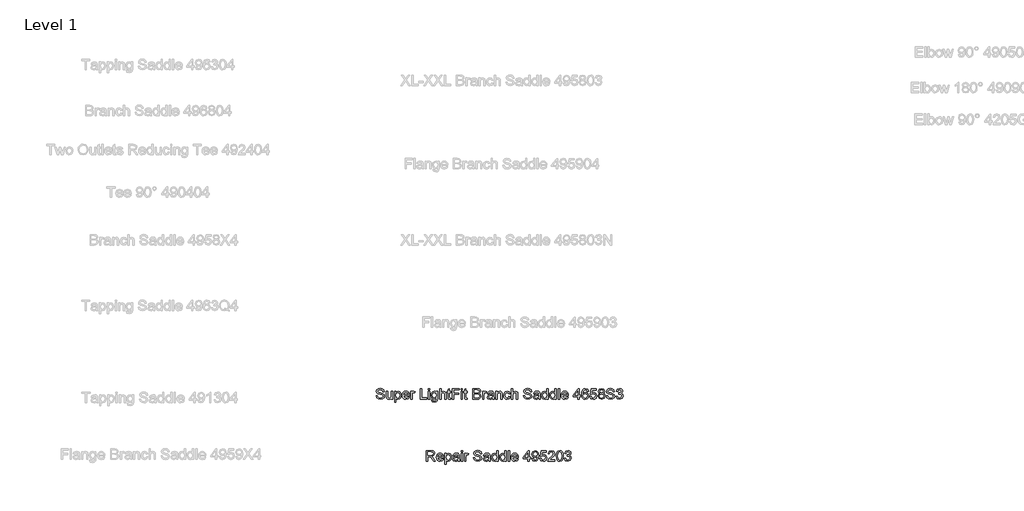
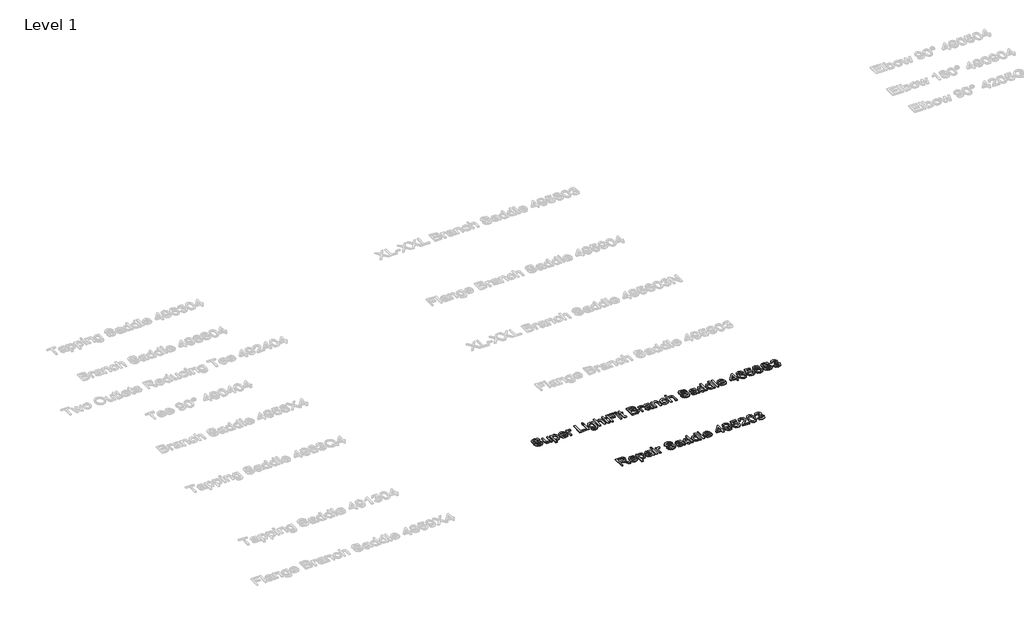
# One storey, part 11 of 41: 2 proxies.
"""IFC4 building model written with IfcOpenShell, lengths in millimetres."""

from ifc_helpers import new_model, si_unit, origin, origin_with_axes, place, context, project, spatial, polyline, outline, extrude, element, save

model = new_model("IFC4")

# Units and contexts
model_context = context("Model", 3, world=origin())
ifc_project = project(units=[si_unit("LENGTHUNIT", "METRE", prefix="MILLI")], contexts=[model_context])

# Site, building, storey
site = spatial("IfcSite", under=ifc_project)
building = spatial("IfcBuilding", under=site)
storey = spatial("IfcBuildingStorey", under=building, Name="Level 1", Elevation=0.0)

# Proxies
placement = place(None, origin())
element("IfcBuildingElementProxy", 1, Name="100 mm Arial", ObjectType="100 mm Arial", at=placement, inside=storey, context=model_context, shape_type="SweptSolid", body=[
    extrude(outline(polyline([(8290.2094957, 1978.2970875), (8297.743719, 1978.2970875), (8300.1717402, 1970.7555066), (8306.1019979, 1965.987756), (8315.1371797, 1964.1704189), (8323.0098544, 1965.5462976), (8328.0939836, 1969.3281245), (8329.7641679, 1974.3828231), (8328.5133691, 1979.084355), (8323.3924517, 1982.5056575), (8312.4222106, 1985.3824947), (8300.6131986, 1989.0981029), (8294.2046942, 1994.7046245), (8292.0930516, 2002.1947019), (8294.7050137, 2010.7222066), (8302.3348863, 2016.740756), (8313.5037837, 2018.7935375), (8325.4231603, 2016.6451067), (8333.3694114, 2010.3322516), (8336.3566132, 2000.8997573), (8328.82239, 2000.8997573), (8324.5549588, 2008.6399945), (8313.7980893, 2011.2593143), (8303.0117892, 2008.669425), (8299.6272748, 2002.4154311), (8302.0258654, 1997.1915068), (8314.3278393, 1992.9829368), (8327.6598828, 1989.2011098), (8334.951304, 1983.0942687), (8337.2983911, 1974.5741217), (8334.5981373, 1965.5610128), (8326.8284695, 1958.9832828), (8315.4314853, 1956.6361956), (8301.9743619, 1959.1672238), (8293.4615726, 1966.7897387), (8290.2094957, 1978.2970875)])), origin_with_axes(), (0.0, 0.0, 1.0), 5.0),
    extrude(outline(polyline([(8375.9112853, 1957.5779735), (8375.9112853, 1965.1857732), (8370.0104581, 1958.77359), (8362.3143668, 1956.6361956), (8355.2289596, 1958.1371542), (8350.3434867, 1961.9042658), (8348.0994065, 1967.4519263), (8347.6579481, 1974.4563995), (8347.6579481, 2001.8415352), (8355.1921714, 2001.8415352), (8355.1921714, 1978.0027819), (8355.648345, 1970.3214059), (8358.6281892, 1965.8111726), (8364.2420684, 1964.1704189), (8370.5328506, 1965.8479608), (8374.6899171, 1970.4170552), (8375.9112853, 1978.8121223), (8375.9112853, 2001.8415352), (8383.4455086, 2001.8415352), (8383.4455086, 1957.5779735), (8375.9112853, 1957.5779735)])), origin_with_axes(), (0.0, 0.0, 1.0), 5.0),
    extrude(outline(polyline([(8393.8050656, 1940.6259712), (8393.8050656, 2001.8415352), (8401.3392888, 2001.8415352), (8401.3392888, 1994.4544647), (8406.5484979, 2000.701101), (8413.5824016, 2002.7833131), (8423.1326182, 1999.8696877), (8429.3718969, 1991.6585616), (8431.4761819, 1980.0482058), (8429.0996642, 1967.8418812), (8422.198198, 1959.5277481), (8412.6700543, 1956.6361956), (8406.1143971, 1958.5712549), (8401.3392888, 1963.4640855), (8401.3392888, 1940.6259712), (8393.8050656, 1940.6259712)]), holes=[polyline([(8401.3392888, 1979.3565877), (8404.5987233, 1967.8786694), (8412.5081862, 1964.1704189), (8420.5795172, 1968.0111069), (8423.9419586, 1979.9157683), (8420.6604512, 1991.4231171), (8412.8172071, 1995.2490898), (8404.8194525, 1991.180315), (8401.3392888, 1979.3565877)])]), origin_with_axes(), (0.0, 0.0, 1.0), 5.0),
    extrude(outline(polyline([(8470.9425623, 1970.7628642), (8478.3296328, 1969.8210863), (8471.4208089, 1960.0942864), (8458.5522967, 1956.6361956), (8449.7120924, 1958.1279571), (8442.9099543, 1962.6032416), (8438.5726256, 1969.7714223), (8437.1268493, 1979.3418724), (8438.5873409, 1989.2342192), (8442.9688154, 1996.6323261), (8449.678983, 2001.2455664), (8458.1255536, 2002.7833131), (8466.3090886, 2001.2492452), (8472.8481911, 1996.6470414), (8477.1358557, 1989.2636498), (8478.5650773, 1979.3860182), (8478.5209314, 1977.3553096), (8444.6610726, 1977.3553096), (8448.9947225, 1967.5696485), (8458.6994495, 1964.1704189), (8466.08652, 1965.7449538), (8470.9425623, 1970.7628642)]), holes=[polyline([(8444.6610726, 1984.8895329), (8471.030854, 1984.8895329), (8468.0142216, 1991.7174227), (8458.0961231, 1995.2490898), (8448.8181391, 1992.4311138), (8444.6610726, 1984.8895329)])]), origin_with_axes(), (0.0, 0.0, 1.0), 5.0),
    extrude(outline(polyline([(8486.0993005, 1957.5779735), (8486.0993005, 2001.8415352), (8492.6917459, 2001.8415352), (8492.6917459, 1995.2932357), (8497.3712049, 2001.3265004), (8502.0800944, 2002.7833131), (8509.6437482, 2000.4582989), (8507.1274354, 1993.7039855), (8501.8299346, 1995.2490898), (8497.5698611, 1993.7628466), (8494.854892, 1989.6425682), (8493.6335238, 1980.8428309), (8493.6335238, 1957.5779735), (8486.0993005, 1957.5779735)])), origin_with_axes(), (0.0, 0.0, 1.0), 5.0),
    extrude(outline(polyline([(8538.8388634, 1957.5779735), (8538.8388634, 2017.8517596), (8546.3730866, 2017.8517596), (8546.3730866, 1965.1121968), (8576.5099797, 1965.1121968), (8576.5099797, 1957.5779735), (8538.8388634, 1957.5779735)])), origin_with_axes(), (0.0, 0.0, 1.0), 5.0),
    extrude(outline(polyline([(8584.0442029, 1957.5779735), (8584.0442029, 2001.8415352), (8591.5784262, 2001.8415352), (8591.5784262, 1957.5779735), (8584.0442029, 1957.5779735)])), origin_with_axes(), (0.0, 0.0, 1.0), 5.0),
    extrude(outline(polyline([(8584.0442029, 2010.3175364), (8584.0442029, 2017.8517596), (8591.5784262, 2017.8517596), (8591.5784262, 2010.3175364), (8584.0442029, 2010.3175364)])), origin_with_axes(), (0.0, 0.0, 1.0), 5.0),
    extrude(outline(polyline([(8600.9962053, 1953.8108619), (8608.5304285, 1952.869084), (8610.973165, 1948.8959585), (8618.286659, 1947.2184166), (8625.9974657, 1949.1166877), (8629.6762856, 1954.4436189), (8630.1913204, 1963.228641), (8618.4190966, 1957.5779735), (8610.6512682, 1959.2224061), (8604.8589662, 1964.1557036), (8600.0544274, 1979.9304836), (8602.2102158, 1991.6070581), (8608.4494945, 1999.8696877), (8618.0512146, 2002.7833131), (8624.7724186, 2001.1352018), (8630.1913204, 1996.1908678), (8630.1913204, 2001.8415352), (8637.7255437, 2001.8415352), (8637.7255437, 1963.6259535), (8635.6654045, 1948.9916078), (8629.1391779, 1942.1857909), (8618.1395062, 1939.6841933), (8605.6094455, 1943.2085028), (8600.9962053, 1953.8108619)]), holes=[polyline([(8607.5886506, 1980.4455184), (8610.8039393, 1968.7836591), (8618.8752702, 1965.1121968), (8626.9318859, 1968.7615862), (8630.1913204, 1980.2247892), (8626.8362366, 1991.4599053), (8618.757548, 1995.2490898), (8610.8480851, 1991.5187664), (8607.5886506, 1980.4455184)])]), origin_with_axes(), (0.0, 0.0, 1.0), 5.0),
    extrude(outline(polyline([(8649.0268786, 1957.5779735), (8649.0268786, 2017.8517596), (8656.5611018, 2017.8517596), (8656.5611018, 1995.6905482), (8662.4361773, 2001.0101219), (8669.6724161, 2002.7833131), (8678.133702, 2000.8482538), (8683.2693347, 1995.4992496), (8684.814439, 1985.5958663), (8684.814439, 1957.5779735), (8677.2802158, 1957.5779735), (8677.2802158, 1984.8159565), (8674.8816252, 1992.7622076), (8668.0831659, 1995.2490898), (8661.910106, 1993.5715479), (8657.7898277, 1989.0245265), (8656.5611018, 1981.0929907), (8656.5611018, 1957.5779735), (8649.0268786, 1957.5779735)])), origin_with_axes(), (0.0, 0.0, 1.0), 5.0),
    extrude(outline(polyline([(8711.1842205, 1963.861398), (8712.1259984, 1957.3572443), (8706.4900462, 1956.6361956), (8700.1771912, 1957.8869944), (8697.0281213, 1961.1685018), (8696.1157739, 1969.7180794), (8696.1157739, 1994.3073119), (8690.4651065, 1994.3073119), (8690.4651065, 2001.8415352), (8696.1157739, 2001.8415352), (8696.1157739, 2012.5984047), (8703.6499972, 2017.027704), (8703.6499972, 2001.8415352), (8711.1842205, 2001.8415352), (8711.1842205, 1994.3073119), (8703.6499972, 1994.3073119), (8703.6499972, 1969.9388086), (8704.0473098, 1966.0539747), (8705.3348967, 1964.678096), (8707.9027131, 1964.1704189), (8711.1842205, 1963.861398)])), origin_with_axes(), (0.0, 0.0, 1.0), 5.0),
    extrude(outline(polyline([(8719.6602216, 1957.5779735), (8719.6602216, 2017.8517596), (8760.1566717, 2017.8517596), (8760.1566717, 2010.3175364), (8727.1944449, 2010.3175364), (8727.1944449, 1992.4237561), (8755.4477821, 1992.4237561), (8755.4477821, 1984.8895329), (8727.1944449, 1984.8895329), (8727.1944449, 1957.5779735), (8719.6602216, 1957.5779735)])), origin_with_axes(), (0.0, 0.0, 1.0), 5.0),
    extrude(outline(polyline([(8769.5744507, 1957.5779735), (8769.5744507, 2001.8415352), (8777.108674, 2001.8415352), (8777.108674, 1957.5779735), (8769.5744507, 1957.5779735)])), origin_with_axes(), (0.0, 0.0, 1.0), 5.0),
    extrude(outline(polyline([(8769.5744507, 2010.3175364), (8769.5744507, 2017.8517596), (8777.108674, 2017.8517596), (8777.108674, 2010.3175364), (8769.5744507, 2010.3175364)])), origin_with_axes(), (0.0, 0.0, 1.0), 5.0),
    extrude(outline(polyline([(8804.4202333, 1963.861398), (8805.3620112, 1957.3572443), (8799.7260591, 1956.6361956), (8793.413204, 1957.8869944), (8790.2641341, 1961.1685018), (8789.3517868, 1969.7180794), (8789.3517868, 1994.3073119), (8783.7011193, 1994.3073119), (8783.7011193, 2001.8415352), (8789.3517868, 2001.8415352), (8789.3517868, 2012.5984047), (8796.8860101, 2017.027704), (8796.8860101, 2001.8415352), (8804.4202333, 2001.8415352), (8804.4202333, 1994.3073119), (8796.8860101, 1994.3073119), (8796.8860101, 1969.9388086), (8797.2833226, 1966.0539747), (8798.5709096, 1964.678096), (8801.1387259, 1964.1704189), (8804.4202333, 1963.861398)])), origin_with_axes(), (0.0, 0.0, 1.0), 5.0),
    extrude(outline(polyline([(8836.4406822, 1957.5779735), (8836.4406822, 2017.8517596), (8859.4406645, 2017.8517596), (8870.7052112, 2016.0785684), (8877.3565177, 2010.6265572), (8879.7624659, 2002.9157506), (8877.739115, 1995.8744892), (8871.6249162, 1990.5402003), (8879.0487749, 1984.9189634), (8881.6460217, 1975.5453302), (8879.8728305, 1967.4445687), (8875.4803195, 1961.676179), (8868.9246624, 1958.6154008), (8859.2640812, 1957.5779735), (8836.4406822, 1957.5779735)]), holes=[polyline([(8843.9749054, 1965.1121968), (8859.4259492, 1965.1121968), (8865.0177556, 1965.4065024), (8869.748718, 1967.0472561), (8872.8830726, 1970.3949823), (8874.1117985, 1975.4717538), (8872.6697011, 1981.3284351), (8867.9975997, 1984.8233141), (8858.6901852, 1985.8313108), (8843.9749054, 1985.8313108), (8843.9749054, 1965.1121968)]), polyline([(8843.9749054, 1993.365534), (8857.7336921, 1993.365534), (8865.7682348, 1994.0130063), (8870.6022042, 1996.8015519), (8872.2282427, 2001.7090977), (8870.7125688, 2006.6240011), (8866.3715613, 2009.5302689), (8856.6889072, 2010.3175364), (8843.9749054, 2010.3175364), (8843.9749054, 1993.365534)])]), origin_with_axes(), (0.0, 0.0, 1.0), 5.0),
    extrude(outline(polyline([(8891.0638008, 1957.5779735), (8891.0638008, 2001.8415352), (8897.6562462, 2001.8415352), (8897.6562462, 1995.2932357), (8902.3357052, 2001.3265004), (8907.0445947, 2002.7833131), (8914.6082485, 2000.4582989), (8912.0919357, 1993.7039855), (8906.7944349, 1995.2490898), (8902.5343614, 1993.7628466), (8899.8193923, 1989.6425682), (8898.5980241, 1980.8428309), (8898.5980241, 1957.5779735), (8891.0638008, 1957.5779735)])), origin_with_axes(), (0.0, 0.0, 1.0), 5.0),
    extrude(outline(polyline([(8947.5704753, 1963.228641), (8940.2643389, 1958.1224389), (8932.1930079, 1956.6361956), (8921.2521973, 1960.2120086), (8917.4335822, 1969.3501974), (8918.8756797, 1975.3098857), (8922.6648642, 1979.636178), (8927.940292, 1982.108345), (8934.459161, 1983.2414215), (8947.5263294, 1985.8313108), (8947.5704753, 1987.5088527), (8945.4956208, 1993.0712284), (8937.1667725, 1995.2490898), (8929.5442575, 1993.7996348), (8925.9095834, 1988.6566445), (8918.3753601, 1989.5984224), (8921.6347946, 1996.9560623), (8928.1978094, 2001.2676393), (8938.1379809, 2002.7833131), (8947.268812, 2001.4442226), (8952.4265176, 1998.0817812), (8954.7368165, 1992.9682215), (8955.1046985, 1986.3757761), (8955.1046985, 1977.0021429), (8955.4872958, 1963.9129015), (8956.9882544, 1957.5779735), (8949.4540311, 1957.5779735), (8947.5704753, 1963.228641)]), holes=[polyline([(8947.5704753, 1978.2970875), (8935.4156542, 1975.9867886), (8928.9335734, 1974.7654204), (8925.9978751, 1972.7788576), (8924.9678055, 1969.8799475), (8927.2118857, 1965.803815), (8933.7969734, 1964.1704189), (8941.4194883, 1965.9730407), (8946.3343918, 1970.3361211), (8947.5263294, 1976.1633719), (8947.5704753, 1978.2970875)])]), origin_with_axes(), (0.0, 0.0, 1.0), 5.0),
    extrude(outline(polyline([(8965.4642555, 1957.5779735), (8965.4642555, 2001.8415352), (8972.9984788, 2001.8415352), (8972.9984788, 1995.6611177), (8978.7595108, 2001.0027643), (8986.6248279, 2002.7833131), (8993.7396657, 2001.3485733), (8998.595708, 1997.5814617), (9000.8545035, 1992.0411588), (9001.251816, 1984.7570953), (9001.251816, 1957.5779735), (8993.7175928, 1957.5779735), (8993.7175928, 1983.741741), (8992.8493912, 1990.4077628), (8989.7812554, 1993.9320723), (8984.6088346, 1995.2490898), (8976.4344966, 1992.2913186), (8972.9984788, 1981.0635601), (8972.9984788, 1957.5779735), (8965.4642555, 1957.5779735)])), origin_with_axes(), (0.0, 0.0, 1.0), 5.0),
    extrude(outline(polyline([(9039.8647102, 1973.588198), (9047.3989335, 1972.6464201), (9041.3509535, 1960.8815539), (9029.4021463, 1956.6361956), (9021.387837, 1958.1169207), (9015.1209672, 1962.5590958), (9011.0761047, 1969.7677435), (9009.7278172, 1979.5478863), (9012.0307585, 1992.0632318), (9019.0499469, 2000.1051322), (9029.2991393, 2002.7833131), (9040.7549847, 1999.1044932), (9046.4571556, 1988.6566445), (9038.9229323, 1987.7148666), (9035.4280534, 1993.3581764), (9029.3580004, 1995.2490898), (9020.6244819, 1991.5261241), (9017.2620404, 1979.7539002), (9020.5509055, 1967.8713118), (9029.1519865, 1964.1704189), (9036.252109, 1966.4807178), (9039.8647102, 1973.588198)])), origin_with_axes(), (0.0, 0.0, 1.0), 5.0),
    extrude(outline(polyline([(9053.9913788, 1957.5779735), (9053.9913788, 2017.8517596), (9061.5256021, 2017.8517596), (9061.5256021, 1995.6905482), (9067.4006776, 2001.0101219), (9074.6369164, 2002.7833131), (9083.0982023, 2000.8482538), (9088.233835, 1995.4992496), (9089.7789393, 1985.5958663), (9089.7789393, 1957.5779735), (9082.2447161, 1957.5779735), (9082.2447161, 1984.8159565), (9079.8461255, 1992.7622076), (9073.0476662, 1995.2490898), (9066.8746063, 1993.5715479), (9062.754328, 1989.0245265), (9061.5256021, 1981.0929907), (9061.5256021, 1957.5779735), (9053.9913788, 1957.5779735)])), origin_with_axes(), (0.0, 0.0, 1.0), 5.0),
    extrude(outline(polyline([(9121.7993882, 1978.2970875), (9129.3336115, 1978.2970875), (9131.7616326, 1970.7555066), (9137.6918904, 1965.987756), (9146.7270722, 1964.1704189), (9154.5997469, 1965.5462976), (9159.6838761, 1969.3281245), (9161.3540603, 1974.3828231), (9160.1032615, 1979.084355), (9154.9823442, 1982.5056575), (9144.0121031, 1985.3824947), (9132.203091, 1989.0981029), (9125.7945867, 1994.7046245), (9123.682944, 2002.1947019), (9126.2949062, 2010.7222066), (9133.9247788, 2016.740756), (9145.0936761, 2018.7935375), (9157.0130528, 2016.6451067), (9164.9593039, 2010.3322516), (9167.9465057, 2000.8997573), (9160.4122824, 2000.8997573), (9156.1448513, 2008.6399945), (9145.3879817, 2011.2593143), (9134.6016816, 2008.669425), (9131.2171673, 2002.4154311), (9133.6157579, 1997.1915068), (9145.9177318, 1992.9829368), (9159.2497753, 1989.2011098), (9166.5411964, 1983.0942687), (9168.8882836, 1974.5741217), (9166.1880297, 1965.5610128), (9158.418362, 1958.9832828), (9147.0213778, 1956.6361956), (9133.5642544, 1959.1672238), (9125.051465, 1966.7897387), (9121.7993882, 1978.2970875)])), origin_with_axes(), (0.0, 0.0, 1.0), 5.0),
    extrude(outline(polyline([(9207.5011778, 1963.228641), (9200.1950414, 1958.1224389), (9192.1237104, 1956.6361956), (9181.1828999, 1960.2120086), (9177.3642847, 1969.3501974), (9178.8063822, 1975.3098857), (9182.5955667, 1979.636178), (9187.8709945, 1982.108345), (9194.3898635, 1983.2414215), (9207.457032, 1985.8313108), (9207.5011778, 1987.5088527), (9205.4263233, 1993.0712284), (9197.097475, 1995.2490898), (9189.47496, 1993.7996348), (9185.8402859, 1988.6566445), (9178.3060627, 1989.5984224), (9181.5654971, 1996.9560623), (9188.1285119, 2001.2676393), (9198.0686834, 2002.7833131), (9207.1995146, 2001.4442226), (9212.3572201, 1998.0817812), (9214.6675191, 1992.9682215), (9215.0354011, 1986.3757761), (9215.0354011, 1977.0021429), (9215.4179983, 1963.9129015), (9216.9189569, 1957.5779735), (9209.3847336, 1957.5779735), (9207.5011778, 1963.228641)]), holes=[polyline([(9207.5011778, 1978.2970875), (9195.3463567, 1975.9867886), (9188.8642759, 1974.7654204), (9185.9285776, 1972.7788576), (9184.898508, 1969.8799475), (9187.1425882, 1965.803815), (9193.7276759, 1964.1704189), (9201.3501908, 1965.9730407), (9206.2650943, 1970.3361211), (9207.457032, 1976.1633719), (9207.5011778, 1978.2970875)])]), origin_with_axes(), (0.0, 0.0, 1.0), 5.0),
    extrude(outline(polyline([(9252.7065174, 1957.5779735), (9252.7065174, 1964.6854537), (9247.7217163, 1958.6485101), (9240.8312866, 1956.6361956), (9231.5017992, 1959.549821), (9224.9093538, 1967.6800131), (9222.5696243, 1979.6656085), (9224.7254128, 1991.6585616), (9231.1854206, 1999.9138335), (9240.801856, 2002.7833131), (9247.7474681, 2000.7305316), (9252.7065174, 1995.3962426), (9252.7065174, 2017.8517596), (9260.2407406, 2017.8517596), (9260.2407406, 1957.5779735), (9252.7065174, 1957.5779735)]), holes=[polyline([(9230.1038476, 1979.6950391), (9233.5030772, 1968.0331798), (9241.5229047, 1964.1704189), (9249.4470829, 1967.8565965), (9252.7065174, 1979.1211432), (9249.3882218, 1991.3495407), (9241.2138838, 1995.2490898), (9233.282348, 1991.5040511), (9230.1038476, 1979.6950391)])]), origin_with_axes(), (0.0, 0.0, 1.0), 5.0),
    extrude(outline(polyline([(9298.8536348, 1957.5779735), (9298.8536348, 1964.6854537), (9293.8688338, 1958.6485101), (9286.978404, 1956.6361956), (9277.6489166, 1959.549821), (9271.0564713, 1967.6800131), (9268.7167418, 1979.6656085), (9270.8725303, 1991.6585616), (9277.3325381, 1999.9138335), (9286.9489735, 2002.7833131), (9293.8945855, 2000.7305316), (9298.8536348, 1995.3962426), (9298.8536348, 2017.8517596), (9306.3878581, 2017.8517596), (9306.3878581, 1957.5779735), (9298.8536348, 1957.5779735)]), holes=[polyline([(9276.2509651, 1979.6950391), (9279.6501947, 1968.0331798), (9287.6700222, 1964.1704189), (9295.5942004, 1967.8565965), (9298.8536348, 1979.1211432), (9295.5353392, 1991.3495407), (9287.3610013, 1995.2490898), (9279.4294655, 1991.5040511), (9276.2509651, 1979.6950391)])]), origin_with_axes(), (0.0, 0.0, 1.0), 5.0),
    extrude(outline(polyline([(9317.689193, 1957.5779735), (9317.689193, 2017.8517596), (9325.2234162, 2017.8517596), (9325.2234162, 1957.5779735), (9317.689193, 1957.5779735)])), origin_with_axes(), (0.0, 0.0, 1.0), 5.0),
    extrude(outline(polyline([(9367.5151304, 1970.7628642), (9374.9022009, 1969.8210863), (9367.993377, 1960.0942864), (9355.1248648, 1956.6361956), (9346.2846605, 1958.1279571), (9339.4825224, 1962.6032416), (9335.1451937, 1969.7714223), (9333.6994174, 1979.3418724), (9335.1599089, 1989.2342192), (9339.5413835, 1996.6323261), (9346.2515511, 2001.2455664), (9354.6981217, 2002.7833131), (9362.8816567, 2001.2492452), (9369.4207591, 1996.6470414), (9373.7084238, 1989.2636498), (9375.1376454, 1979.3860182), (9375.0934995, 1977.3553096), (9341.2336407, 1977.3553096), (9345.5672906, 1967.5696485), (9355.2720176, 1964.1704189), (9362.6590881, 1965.7449538), (9367.5151304, 1970.7628642)]), holes=[polyline([(9341.2336407, 1984.8895329), (9367.6034221, 1984.8895329), (9364.5867897, 1991.7174227), (9354.6686911, 1995.2490898), (9345.3907072, 1992.4311138), (9341.2336407, 1984.8895329)])]), origin_with_axes(), (0.0, 0.0, 1.0), 5.0),
    extrude(outline(polyline([(9428.8189861, 1957.5779735), (9428.8189861, 1971.7046422), (9401.5074268, 1971.7046422), (9401.5074268, 1979.2388654), (9430.7025419, 2016.9099817), (9436.3532094, 2016.9099817), (9436.3532094, 1979.2388654), (9443.8874326, 1979.2388654), (9443.8874326, 1971.7046422), (9436.3532094, 1971.7046422), (9436.3532094, 1957.5779735), (9428.8189861, 1957.5779735)]), holes=[polyline([(9428.8189861, 1979.2388654), (9428.8189861, 2002.5184381), (9410.778053, 1979.2388654), (9428.8189861, 1979.2388654)])]), origin_with_axes(), (0.0, 0.0, 1.0), 5.0),
    extrude(outline(polyline([(9489.0927722, 2001.8415352), (9481.5585489, 2000.8997573), (9478.7037846, 2007.1831818), (9471.1548461, 2010.3175364), (9464.3563868, 2008.4928417), (9459.2133965, 2001.6428789), (9457.0723233, 1988.2151861), (9463.7162722, 1994.2263779), (9471.9494712, 1996.1908678), (9484.7517646, 1990.8197906), (9490.0345501, 1976.9432818), (9487.5476678, 1966.5469366), (9480.7050627, 1959.1892967), (9470.8311099, 1956.6361956), (9462.2833718, 1958.3284528), (9455.4757155, 1963.4052243), (9451.0225039, 1972.3668297), (9449.5381001, 1985.7135885), (9451.1862114, 2000.7194951), (9456.1305454, 2010.979724), (9462.88118, 2016.1337507), (9471.625735, 2017.8517596), (9483.5303964, 2013.5990438), (9489.0927722, 2001.8415352)]), holes=[polyline([(9457.0723233, 1977.061004), (9458.816084, 1970.5347774), (9463.4513971, 1965.7964573), (9470.2424987, 1964.1704189), (9479.1231701, 1967.540218), (9482.5003268, 1976.693122), (9479.167316, 1985.4560711), (9469.9334779, 1988.6566445), (9460.817362, 1985.4560711), (9457.0723233, 1977.061004)])]), origin_with_axes(), (0.0, 0.0, 1.0), 5.0),
    extrude(outline(polyline([(9496.6269954, 1973.588198), (9504.1612187, 1974.5299759), (9507.9577609, 1966.7676658), (9515.8304356, 1964.1704189), (9525.2776452, 1967.7830201), (9528.6474443, 1977.3700249), (9525.4910168, 1986.316915), (9515.9481578, 1989.5984224), (9509.3336396, 1988.2887625), (9505.1029966, 1984.8895329), (9497.5687733, 1985.8313108), (9504.1612187, 2016.9099817), (9533.3563338, 2016.9099817), (9533.3563338, 2009.3757585), (9510.2533445, 2009.3757585), (9507.0306983, 1992.7769228), (9518.0524428, 1997.1326457), (9530.9356703, 1991.732138), (9536.1816676, 1977.8409138), (9531.4580627, 1963.861398), (9524.6743188, 1958.4424962), (9515.801005, 1956.6361956), (9502.5057497, 1961.2788664), (9496.6269954, 1973.588198)])), origin_with_axes(), (0.0, 0.0, 1.0), 5.0),
    extrude(outline(polyline([(9553.7517117, 1990.7756448), (9546.8870336, 1995.4551038), (9544.6576687, 2002.7391673), (9549.5137111, 2013.4960368), (9562.448442, 2017.8517596), (9575.5008952, 2013.3930298), (9580.4452292, 2002.5331534), (9578.2452949, 1995.4330308), (9571.5719155, 1990.7756448), (9579.5843854, 1984.8674599), (9582.328785, 1975.1185871), (9576.8841315, 1961.9631269), (9562.551449, 1956.6361956), (9548.2187664, 1961.9851998), (9542.7741129, 1975.324601), (9545.6288772, 1985.3015607), (9553.7517117, 1990.7756448)]), holes=[polyline([(9552.191892, 2002.5184381), (9554.8627153, 1996.6028956), (9562.6397407, 1994.3073119), (9570.2622556, 1996.5881803), (9572.911006, 2002.1799866), (9570.1739639, 2007.9704492), (9562.551449, 2010.3175364), (9554.9068611, 2008.0219527), (9552.191892, 2002.5184381)]), polyline([(9550.3083362, 1975.589476), (9551.5664926, 1969.9167357), (9556.0178647, 1965.6713774), (9562.6103101, 1964.1704189), (9571.5866308, 1967.3268464), (9574.7945618, 1975.3540315), (9571.4836238, 1983.5357271), (9562.3601503, 1986.7730887), (9553.4941943, 1983.579873), (9550.3083362, 1975.589476)])]), origin_with_axes(), (0.0, 0.0, 1.0), 5.0),
    extrude(outline(polyline([(9588.9212304, 1978.2970875), (9596.4554537, 1978.2970875), (9598.8834748, 1970.7555066), (9604.8137326, 1965.987756), (9613.8489144, 1964.1704189), (9621.7215891, 1965.5462976), (9626.8057183, 1969.3281245), (9628.4759025, 1974.3828231), (9627.2251037, 1979.084355), (9622.1041864, 1982.5056575), (9611.1339453, 1985.3824947), (9599.3249332, 1989.0981029), (9592.9164289, 1994.7046245), (9590.8047862, 2002.1947019), (9593.4167484, 2010.7222066), (9601.046621, 2016.740756), (9612.2155183, 2018.7935375), (9624.134895, 2016.6451067), (9632.0811461, 2010.3322516), (9635.0683479, 2000.8997573), (9627.5341246, 2000.8997573), (9623.2666935, 2008.6399945), (9612.5098239, 2011.2593143), (9601.7235238, 2008.669425), (9598.3390095, 2002.4154311), (9600.7376001, 1997.1915068), (9613.039574, 1992.9829368), (9626.3716175, 1989.2011098), (9633.6630386, 1983.0942687), (9636.0101258, 1974.5741217), (9633.3098719, 1965.5610128), (9625.5402042, 1958.9832828), (9614.14322, 1956.6361956), (9600.6860966, 1959.1672238), (9592.1733072, 1966.7897387), (9588.9212304, 1978.2970875)])), origin_with_axes(), (0.0, 0.0, 1.0), 5.0),
    extrude(outline(polyline([(9644.4861269, 1973.588198), (9652.0203502, 1974.5299759), (9656.1774168, 1966.5984401), (9663.9544421, 1964.1704189), (9673.1073462, 1967.5107874), (9676.5065758, 1975.7807747), (9673.1367767, 1983.5725153), (9664.5724839, 1986.6553664), (9659.2896984, 1985.8313108), (9660.1284694, 1993.365534), (9669.8846999, 1995.4403885), (9673.6812421, 2002.091695), (9670.9294848, 2007.9851645), (9663.8367199, 2010.3175364), (9656.6556633, 2007.9630916), (9652.9621281, 2000.8997573), (9645.4279049, 2001.8415352), (9651.5936071, 2013.6579049), (9663.5718449, 2017.8517596), (9672.6585301, 2015.7842628), (9679.015531, 2010.1335954), (9681.2154653, 2002.5331534), (9679.1258956, 1995.5875413), (9672.9454781, 1990.5990614), (9681.1566042, 1985.4487135), (9684.0407991, 1975.6483371), (9678.2724094, 1962.1691408), (9663.6895671, 1956.6361956), (9650.4752458, 1961.3598005), (9644.4861269, 1973.588198)])), origin_with_axes(), (0.0, 0.0, 1.0), 5.0),
])
element("IfcBuildingElementProxy", 2, Name="100 mm Arial", ObjectType="100 mm Arial", at=placement, inside=storey, context=model_context, shape_type="SweptSolid", body=[
    extrude(outline(polyline([(8573.0348295, 1607.5779735), (8573.0348295, 1667.8517596), (8599.0072983, 1667.8517596), (8611.0664701, 1666.2257212), (8617.6589155, 1660.4720468), (8620.1237248, 1651.355931), (8616.0402347, 1640.4960545), (8603.4218823, 1634.8895329), (8607.7040287, 1631.6668866), (8613.8108698, 1623.9119341), (8623.8614059, 1607.5779735), (8615.1058144, 1607.5779735), (8607.2625703, 1620.0712461), (8601.5971876, 1628.3412333), (8597.6167044, 1632.2481401), (8594.0335337, 1633.6828799), (8589.6630956, 1633.947755), (8580.5690527, 1633.947755), (8580.5690527, 1607.5779735), (8573.0348295, 1607.5779735)]), holes=[polyline([(8580.5690527, 1641.4819782), (8597.4327634, 1641.4819782), (8606.0338444, 1642.548836), (8610.9193173, 1645.9627809), (8612.5895016, 1651.0763406), (8609.4036435, 1657.7129318), (8599.3310345, 1660.3175364), (8580.5690527, 1660.3175364), (8580.5690527, 1641.4819782)])]), origin_with_axes(), (0.0, 0.0, 1.0), 5.0),
    extrude(outline(polyline([(8663.3572169, 1620.7628642), (8670.7442874, 1619.8210863), (8663.8354635, 1610.0942864), (8650.9669513, 1606.6361956), (8642.126747, 1608.1279571), (8635.3246089, 1612.6032416), (8630.9872802, 1619.7714223), (8629.5415039, 1629.3418724), (8631.0019954, 1639.2342192), (8635.38347, 1646.6323261), (8642.0936376, 1651.2455664), (8650.5402082, 1652.7833131), (8658.7237432, 1651.2492452), (8665.2628457, 1646.6470414), (8669.5505103, 1639.2636498), (8670.9797319, 1629.3860182), (8670.935586, 1627.3553096), (8637.0757272, 1627.3553096), (8641.4093771, 1617.5696485), (8651.1141041, 1614.1704189), (8658.5011746, 1615.7449538), (8663.3572169, 1620.7628642)]), holes=[polyline([(8637.0757272, 1634.8895329), (8663.4455086, 1634.8895329), (8660.4288762, 1641.7174227), (8650.5107776, 1645.2490898), (8641.2327937, 1642.4311138), (8637.0757272, 1634.8895329)])]), origin_with_axes(), (0.0, 0.0, 1.0), 5.0),
    extrude(outline(polyline([(8678.5139551, 1590.6259712), (8678.5139551, 1651.8415352), (8686.0481784, 1651.8415352), (8686.0481784, 1644.4544647), (8691.2573874, 1650.701101), (8698.2912912, 1652.7833131), (8707.8415078, 1649.8696877), (8714.0807864, 1641.6585616), (8716.1850714, 1630.0482058), (8713.8085537, 1617.8418812), (8706.9070875, 1609.5277481), (8697.3789438, 1606.6361956), (8690.8232867, 1608.5712549), (8686.0481784, 1613.4640855), (8686.0481784, 1590.6259712), (8678.5139551, 1590.6259712)]), holes=[polyline([(8686.0481784, 1629.3565877), (8689.3076129, 1617.8786694), (8697.2170758, 1614.1704189), (8705.2884067, 1618.0111069), (8708.6508482, 1629.9157683), (8705.3693408, 1641.4231171), (8697.5260966, 1645.2490898), (8689.5283421, 1641.180315), (8686.0481784, 1629.3565877)])]), origin_with_axes(), (0.0, 0.0, 1.0), 5.0),
    extrude(outline(polyline([(8752.9144098, 1613.228641), (8745.6082734, 1608.1224389), (8737.5369424, 1606.6361956), (8726.5961319, 1610.2120086), (8722.7775168, 1619.3501974), (8724.2196142, 1625.3098857), (8728.0087988, 1629.636178), (8733.2842266, 1632.108345), (8739.8030955, 1633.2414215), (8752.870264, 1635.8313108), (8752.9144098, 1637.5088527), (8750.8395554, 1643.0712284), (8742.510707, 1645.2490898), (8734.8881921, 1643.7996348), (8731.2535179, 1638.6566445), (8723.7192947, 1639.5984224), (8726.9787292, 1646.9560623), (8733.541744, 1651.2676393), (8743.4819155, 1652.7833131), (8752.6127466, 1651.4442226), (8757.7704522, 1648.0817812), (8760.0807511, 1642.9682215), (8760.4486331, 1636.3757761), (8760.4486331, 1627.0021429), (8760.8312304, 1613.9129015), (8762.3321889, 1607.5779735), (8754.7979656, 1607.5779735), (8752.9144098, 1613.228641)]), holes=[polyline([(8752.9144098, 1628.2970875), (8740.7595887, 1625.9867886), (8734.2775079, 1624.7654204), (8731.3418096, 1622.7788576), (8730.31174, 1619.8799475), (8732.5558202, 1615.803815), (8739.1409079, 1614.1704189), (8746.7634229, 1615.9730407), (8751.6783263, 1620.3361211), (8752.870264, 1626.1633719), (8752.9144098, 1628.2970875)])]), origin_with_axes(), (0.0, 0.0, 1.0), 5.0),
    extrude(outline(polyline([(8770.8081901, 1607.5779735), (8770.8081901, 1651.8415352), (8778.3424133, 1651.8415352), (8778.3424133, 1607.5779735), (8770.8081901, 1607.5779735)])), origin_with_axes(), (0.0, 0.0, 1.0), 5.0),
    extrude(outline(polyline([(8770.8081901, 1660.3175364), (8770.8081901, 1667.8517596), (8778.3424133, 1667.8517596), (8778.3424133, 1660.3175364), (8770.8081901, 1660.3175364)])), origin_with_axes(), (0.0, 0.0, 1.0), 5.0),
    extrude(outline(polyline([(8789.6437482, 1607.5779735), (8789.6437482, 1651.8415352), (8796.2361936, 1651.8415352), (8796.2361936, 1645.2932357), (8800.9156526, 1651.3265004), (8805.6245421, 1652.7833131), (8813.1881959, 1650.4582989), (8810.6718831, 1643.7039855), (8805.3743823, 1645.2490898), (8801.1143088, 1643.7628466), (8798.3993397, 1639.6425682), (8797.1779715, 1630.8428309), (8797.1779715, 1607.5779735), (8789.6437482, 1607.5779735)])), origin_with_axes(), (0.0, 0.0, 1.0), 5.0),
    extrude(outline(polyline([(8839.5579773, 1628.2970875), (8847.0922006, 1628.2970875), (8849.5202218, 1620.7555066), (8855.4504795, 1615.987756), (8864.4856613, 1614.1704189), (8872.358336, 1615.5462976), (8877.4424652, 1619.3281245), (8879.1126494, 1624.3828231), (8877.8618507, 1629.084355), (8872.7409333, 1632.5056575), (8861.7706922, 1635.3824947), (8849.9616802, 1639.0981029), (8843.5531758, 1644.7046245), (8841.4415331, 1652.1947019), (8844.0534953, 1660.7222066), (8851.6833679, 1666.740756), (8862.8522653, 1668.7935375), (8874.7716419, 1666.6451067), (8882.717893, 1660.3322516), (8885.7050948, 1650.8997573), (8878.1708715, 1650.8997573), (8873.9034404, 1658.6399945), (8863.1465709, 1661.2593143), (8852.3602708, 1658.669425), (8848.9757564, 1652.4154311), (8851.374347, 1647.1915068), (8863.6763209, 1642.9829368), (8877.0083644, 1639.2011098), (8884.2997856, 1633.0942687), (8886.6468727, 1624.5741217), (8883.9466189, 1615.5610128), (8876.1769511, 1608.9832828), (8864.7799669, 1606.6361956), (8851.3228435, 1609.1672238), (8842.8100542, 1616.7897387), (8839.5579773, 1628.2970875)])), origin_with_axes(), (0.0, 0.0, 1.0), 5.0),
    extrude(outline(polyline([(8925.2597669, 1613.228641), (8917.9536305, 1608.1224389), (8909.8822995, 1606.6361956), (8898.941489, 1610.2120086), (8895.1228739, 1619.3501974), (8896.5649713, 1625.3098857), (8900.3541559, 1629.636178), (8905.6295837, 1632.108345), (8912.1484526, 1633.2414215), (8925.2156211, 1635.8313108), (8925.2597669, 1637.5088527), (8923.1849125, 1643.0712284), (8914.8560641, 1645.2490898), (8907.2335492, 1643.7996348), (8903.598875, 1638.6566445), (8896.0646518, 1639.5984224), (8899.3240863, 1646.9560623), (8905.8871011, 1651.2676393), (8915.8272726, 1652.7833131), (8924.9581037, 1651.4442226), (8930.1158093, 1648.0817812), (8932.4261082, 1642.9682215), (8932.7939902, 1636.3757761), (8932.7939902, 1627.0021429), (8933.1765875, 1613.9129015), (8934.677546, 1607.5779735), (8927.1433227, 1607.5779735), (8925.2597669, 1613.228641)]), holes=[polyline([(8925.2597669, 1628.2970875), (8913.1049458, 1625.9867886), (8906.622865, 1624.7654204), (8903.6871667, 1622.7788576), (8902.6570971, 1619.8799475), (8904.9011773, 1615.803815), (8911.486265, 1614.1704189), (8919.10878, 1615.9730407), (8924.0236834, 1620.3361211), (8925.2156211, 1626.1633719), (8925.2597669, 1628.2970875)])]), origin_with_axes(), (0.0, 0.0, 1.0), 5.0),
    extrude(outline(polyline([(8970.4651065, 1607.5779735), (8970.4651065, 1614.6854537), (8965.4803055, 1608.6485101), (8958.5898757, 1606.6361956), (8949.2603883, 1609.549821), (8942.6679429, 1617.6800131), (8940.3282134, 1629.6656085), (8942.4840019, 1641.6585616), (8948.9440098, 1649.9138335), (8958.5604451, 1652.7833131), (8965.5060572, 1650.7305316), (8970.4651065, 1645.3962426), (8970.4651065, 1667.8517596), (8977.9993298, 1667.8517596), (8977.9993298, 1607.5779735), (8970.4651065, 1607.5779735)]), holes=[polyline([(8947.8624367, 1629.6950391), (8951.2616663, 1618.0331798), (8959.2814938, 1614.1704189), (8967.205672, 1617.8565965), (8970.4651065, 1629.1211432), (8967.1468109, 1641.3495407), (8958.972473, 1645.2490898), (8951.0409371, 1641.5040511), (8947.8624367, 1629.6950391)])]), origin_with_axes(), (0.0, 0.0, 1.0), 5.0),
    extrude(outline(polyline([(9016.612224, 1607.5779735), (9016.612224, 1614.6854537), (9011.6274229, 1608.6485101), (9004.7369932, 1606.6361956), (8995.4075058, 1609.549821), (8988.8150604, 1617.6800131), (8986.4753309, 1629.6656085), (8988.6311194, 1641.6585616), (8995.0911272, 1649.9138335), (9004.7075626, 1652.7833131), (9011.6531747, 1650.7305316), (9016.612224, 1645.3962426), (9016.612224, 1667.8517596), (9024.1464472, 1667.8517596), (9024.1464472, 1607.5779735), (9016.612224, 1607.5779735)]), holes=[polyline([(8994.0095542, 1629.6950391), (8997.4087838, 1618.0331798), (9005.4286113, 1614.1704189), (9013.3527895, 1617.8565965), (9016.612224, 1629.1211432), (9013.2939284, 1641.3495407), (9005.1195904, 1645.2490898), (8997.1880546, 1641.5040511), (8994.0095542, 1629.6950391)])]), origin_with_axes(), (0.0, 0.0, 1.0), 5.0),
    extrude(outline(polyline([(9035.4477821, 1607.5779735), (9035.4477821, 1667.8517596), (9042.9820054, 1667.8517596), (9042.9820054, 1607.5779735), (9035.4477821, 1607.5779735)])), origin_with_axes(), (0.0, 0.0, 1.0), 5.0),
    extrude(outline(polyline([(9085.2737195, 1620.7628642), (9092.66079, 1619.8210863), (9085.7519661, 1610.0942864), (9072.8834539, 1606.6361956), (9064.0432496, 1608.1279571), (9057.2411115, 1612.6032416), (9052.9037828, 1619.7714223), (9051.4580065, 1629.3418724), (9052.9184981, 1639.2342192), (9057.2999726, 1646.6323261), (9064.0101402, 1651.2455664), (9072.4567108, 1652.7833131), (9080.6402458, 1651.2492452), (9087.1793483, 1646.6470414), (9091.4670129, 1639.2636498), (9092.8962345, 1629.3860182), (9092.8520886, 1627.3553096), (9058.9922298, 1627.3553096), (9063.3258797, 1617.5696485), (9073.0306067, 1614.1704189), (9080.4176772, 1615.7449538), (9085.2737195, 1620.7628642)]), holes=[polyline([(9058.9922298, 1634.8895329), (9085.3620112, 1634.8895329), (9082.3453789, 1641.7174227), (9072.4272803, 1645.2490898), (9063.1492964, 1642.4311138), (9058.9922298, 1634.8895329)])]), origin_with_axes(), (0.0, 0.0, 1.0), 5.0),
    extrude(outline(polyline([(9146.5775752, 1607.5779735), (9146.5775752, 1621.7046422), (9119.2660159, 1621.7046422), (9119.2660159, 1629.2388654), (9148.461131, 1666.9099817), (9154.1117985, 1666.9099817), (9154.1117985, 1629.2388654), (9161.6460217, 1629.2388654), (9161.6460217, 1621.7046422), (9154.1117985, 1621.7046422), (9154.1117985, 1607.5779735), (9146.5775752, 1607.5779735)]), holes=[polyline([(9146.5775752, 1629.2388654), (9146.5775752, 1652.5184381), (9128.5366422, 1629.2388654), (9146.5775752, 1629.2388654)])]), origin_with_axes(), (0.0, 0.0, 1.0), 5.0),
    extrude(outline(polyline([(9169.180245, 1622.6464201), (9176.7144683, 1623.588198), (9180.0989826, 1616.3997838), (9186.5148446, 1614.1704189), (9192.6143281, 1615.6051587), (9196.7493217, 1619.4384891), (9199.2141311, 1625.9867886), (9200.3030618, 1634.7276648), (9194.2330089, 1630.4896642), (9185.9703793, 1628.2970875), (9173.3814574, 1633.6534494), (9168.2384671, 1647.7654027), (9173.6316171, 1662.3335297), (9187.1476017, 1667.8517596), (9197.8823983, 1664.7026898), (9205.2694687, 1655.7263691), (9207.7931392, 1638.8626584), (9205.2768264, 1620.564208), (9197.7941066, 1610.1972933), (9186.1616779, 1606.6361956), (9174.5807527, 1610.837408), (9169.180245, 1622.6464201)]), holes=[polyline([(9200.258916, 1647.9419861), (9197.0068391, 1656.9771679), (9188.3689699, 1660.3175364), (9179.3043575, 1656.7196505), (9175.7726904, 1647.3975207), (9179.1130589, 1639.0465994), (9188.162956, 1635.8313108), (9196.8523287, 1639.0465994), (9200.258916, 1647.9419861)])]), origin_with_axes(), (0.0, 0.0, 1.0), 5.0),
    extrude(outline(polyline([(9214.3855846, 1623.588198), (9221.9198078, 1624.5299759), (9225.71635, 1616.7676658), (9233.5890247, 1614.1704189), (9243.0362344, 1617.7830201), (9246.4060334, 1627.3700249), (9243.2496059, 1636.316915), (9233.706747, 1639.5984224), (9227.0922287, 1638.2887625), (9222.8615857, 1634.8895329), (9215.3273625, 1635.8313108), (9221.9198078, 1666.9099817), (9251.114923, 1666.9099817), (9251.114923, 1659.3757585), (9228.0119337, 1659.3757585), (9224.7892874, 1642.7769228), (9235.811032, 1647.1326457), (9248.6942594, 1641.732138), (9253.9402567, 1627.8409138), (9249.2166519, 1613.861398), (9242.4329079, 1608.4424962), (9233.5595942, 1606.6361956), (9220.2643389, 1611.2788664), (9214.3855846, 1623.588198)])), origin_with_axes(), (0.0, 0.0, 1.0), 5.0),
    extrude(outline(polyline([(9299.1455963, 1615.1121968), (9299.1455963, 1607.5779735), (9259.5909241, 1607.5779735), (9260.4002645, 1612.7724673), (9264.9767166, 1620.7702219), (9274.4092109, 1629.5037405), (9287.4175183, 1642.0558741), (9290.6695951, 1650.5907364), (9287.6014593, 1657.4995603), (9279.5889894, 1660.3175364), (9271.2380681, 1657.565779), (9268.0669253, 1649.9579794), (9260.532702, 1650.8997573), (9266.3084494, 1663.5107521), (9279.7508575, 1667.8517596), (9293.2374114, 1663.0251479), (9298.2038184, 1651.0469101), (9296.8647279, 1643.9026417), (9292.4133558, 1636.5155713), (9281.619698, 1626.1928025), (9272.9523982, 1618.9455272), (9269.5531686, 1615.1121968), (9299.1455963, 1615.1121968)])), origin_with_axes(), (0.0, 0.0, 1.0), 5.0),
    extrude(outline(polyline([(9306.6798195, 1637.2292624), (9308.8944691, 1654.5712196), (9315.4721992, 1664.5702522), (9326.4571556, 1667.8517596), (9335.2568929, 1665.9093427), (9341.3343035, 1660.3101787), (9344.8659706, 1651.3927192), (9346.2344916, 1637.2292624), (9344.041915, 1619.9608815), (9337.4862578, 1609.9397759), (9326.4571556, 1606.6361956), (9318.6286267, 1608.0709354), (9312.6836537, 1612.3751548), (9308.1807781, 1622.5691648), (9306.6798195, 1637.2292624)]), holes=[polyline([(9314.2140428, 1637.2439776), (9317.7457099, 1618.5334994), (9326.4571556, 1614.1704189), (9335.1686012, 1618.5482146), (9338.7002684, 1637.2439776), (9335.2863235, 1655.7410843), (9326.3688639, 1660.3175364), (9317.8634322, 1656.2855497), (9314.2140428, 1637.2439776)])]), origin_with_axes(), (0.0, 0.0, 1.0), 5.0),
    extrude(outline(polyline([(9352.826937, 1623.588198), (9360.3611603, 1624.5299759), (9364.5182268, 1616.5984401), (9372.2952522, 1614.1704189), (9381.4481562, 1617.5107874), (9384.8473859, 1625.7807747), (9381.4775868, 1633.5725153), (9372.9132939, 1636.6553664), (9367.6305085, 1635.8313108), (9368.4692794, 1643.365534), (9378.2255099, 1645.4403885), (9382.0220521, 1652.091695), (9379.2702948, 1657.9851645), (9372.1775299, 1660.3175364), (9364.9964734, 1657.9630916), (9361.3029382, 1650.8997573), (9353.7687149, 1651.8415352), (9359.9344171, 1663.6579049), (9371.9126549, 1667.8517596), (9380.9993402, 1665.7842628), (9387.3563411, 1660.1335954), (9389.5562754, 1652.5331534), (9387.4667057, 1645.5875413), (9381.2862881, 1640.5990614), (9389.4974143, 1635.4487135), (9392.3816091, 1625.6483371), (9386.6132194, 1612.1691408), (9372.0303771, 1606.6361956), (9358.8160559, 1611.3598005), (9352.826937, 1623.588198)])), origin_with_axes(), (0.0, 0.0, 1.0), 5.0),
])

save(model, "model.ifc")
